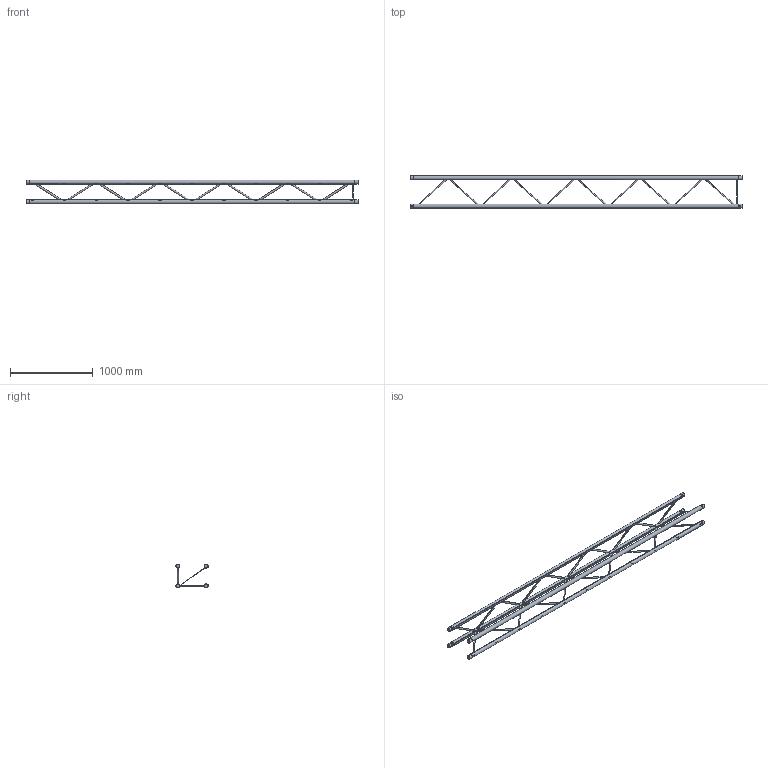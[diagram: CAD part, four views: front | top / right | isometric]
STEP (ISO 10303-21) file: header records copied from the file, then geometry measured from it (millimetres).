
FILE_DESCRIPTION(/* description */ (''),/* implementation_level */ '2;1');
FILE_NAME(/* name */ 'C:\Users\adrian.toca\Desktop\111050504.stp',/* time_stamp */ '2016-09-16T16:34:54+03:00',/* author */ ('adrian.toca'),/* organization */ (''),/* preprocessor_version */ 'ST-DEVELOPER v15.6',/* originating_system */ 'Autodesk Inventor 2015',/* authorisation */ '');
FILE_SCHEMA (('AUTOMOTIVE_DESIGN { 1 0 10303 214 3 1 1 }'));
Length unit declared in the file: millimetre
Products named in the file (1): 260030914
Bounding box: 4000 x 387.3 x 287.3 mm (x, y, z)
Volume: 24702528.5 mm3; surface area: 31426.9 mm2
Topology: 1 solids, 1 shells, 179 faces, 336 edges, 264 vertices
Faces by surface type: plane 102, cylinder 69, cone 8
Full cylindrical faces by diameter (mm): 10 x8, 20 x26, 48.3 x21
Entity records: 7798 total; most frequent: CARTESIAN_POINT 3584, DIRECTION 790, ORIENTED_EDGE 700, EDGE_LOOP 366, AXIS2_PLACEMENT_3D 362, EDGE_CURVE 336, VERTEX_POINT 264, FACE_BOUND 187
